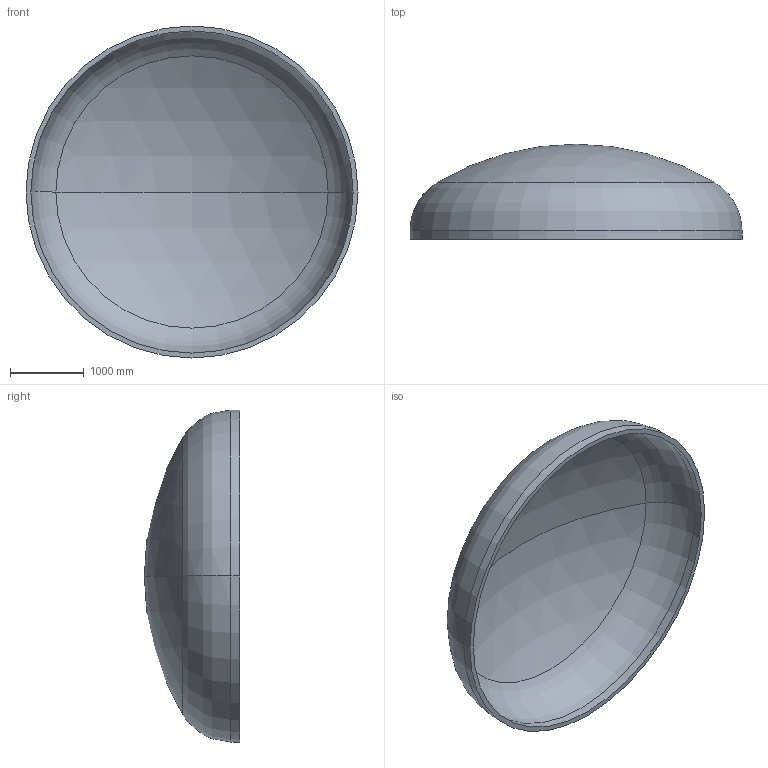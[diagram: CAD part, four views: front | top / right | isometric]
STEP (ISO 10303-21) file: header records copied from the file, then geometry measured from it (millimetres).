
FILE_DESCRIPTION (( 'STEP AP203' ), '1' );
FILE_NAME ('DIN 28013 Korbbogenform_-_Boden DIN 28013 - 4500 x 120 - I - s=66.step', '2016-07-01T23:38:06', ( '' ), ( '' ), 'SwSTEP 2.0', 'SolidWorks 2013', '' );
FILE_SCHEMA (( 'CONFIG_CONTROL_DESIGN' ));
Length unit declared in the file: millimetre
Products named in the file (1): DIN 28013 Korbbogenform_-_Boden DIN 28013 - 4500 x 120 - I - s=66
Bounding box: 4500 x 1291.63 x 4500 mm (x, y, z)
Volume: 1537042338.1 mm3; surface area: 47505515.1 mm2
Topology: 1 solids, 1 shells, 13 faces, 24 edges, 14 vertices
Faces by surface type: torus 4, cylinder 4, sphere 4, plane 1
Entity records: 407 total; most frequent: DIRECTION 72, CARTESIAN_POINT 52, ORIENTED_EDGE 48, AXIS2_PLACEMENT_3D 34, EDGE_CURVE 24, CIRCLE 20, VERTEX_POINT 14, EDGE_LOOP 14
